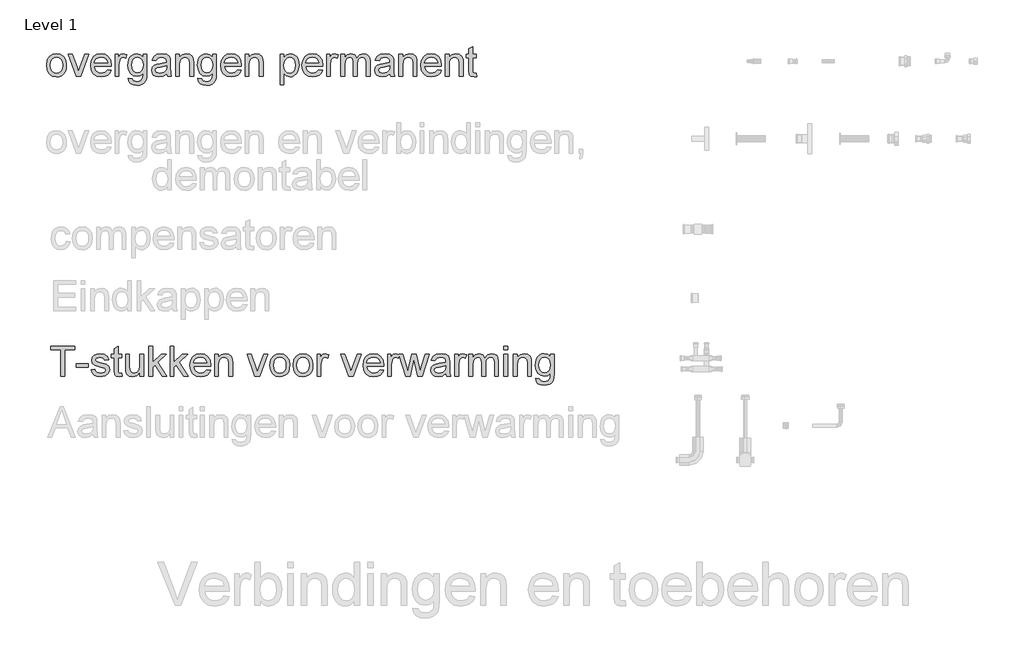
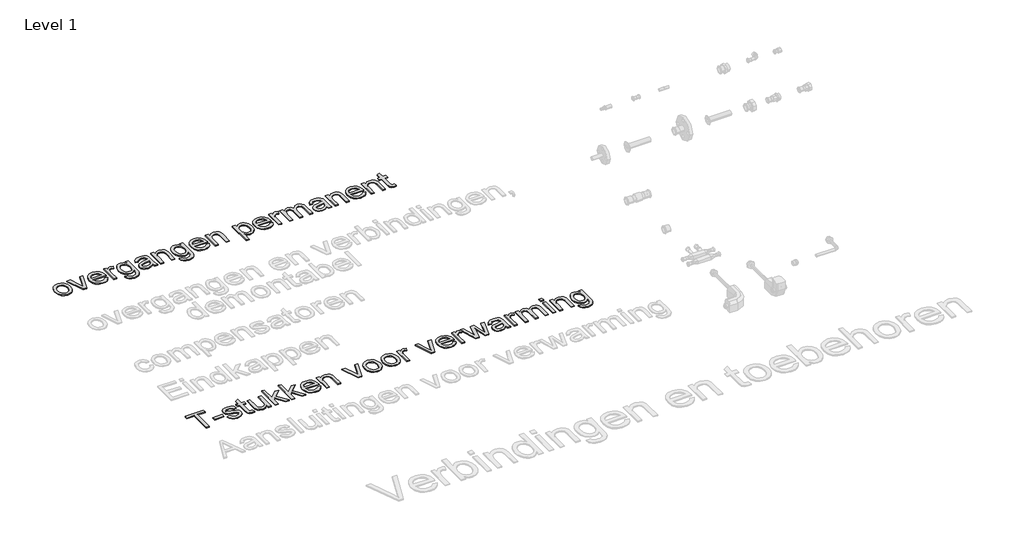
# One storey, part 6 of 8: 2 proxies.
"""IFC4 building model written with IfcOpenShell, lengths in millimetres."""

from ifc_helpers import new_model, si_unit, origin, origin_with_axes, place, context, project, spatial, polyline, outline, extrude, element, save

model = new_model("IFC4")

# Units and contexts
model_context = context("Model", 3, world=origin())
ifc_project = project(units=[si_unit("LENGTHUNIT", "METRE", prefix="MILLI")], contexts=[model_context])

# Site, building, storey
site = spatial("IfcSite", under=ifc_project)
building = spatial("IfcBuilding", under=site)
storey = spatial("IfcBuildingStorey", under=building, Name="Level 1", Elevation=0.0)

# Proxies
placement = place(None, origin())
element("IfcBuildingElementProxy", 1, Name="small", ObjectType="small", at=placement, inside=storey, context=model_context, shape_type="SweptSolid", body=[
    extrude(outline(polyline([(2634.8228033, 5632.1212337), (2638.6254769, 5657.023166), (2650.0334976, 5674.525765), (2664.1282831, 5683.1010943), (2681.0042565, 5685.9595374), (2699.4725458, 5682.4787606), (2714.2240006, 5672.0364302), (2723.8937789, 5655.4566018), (2727.1170383, 5633.5633311), (2725.6921087, 5615.8032147), (2721.4173199, 5602.2835514), (2714.4171387, 5592.1588257), (2704.8160318, 5584.5835223), (2693.412303, 5579.8580781), (2681.0042565, 5578.28293), (2662.3127854, 5581.7508309), (2647.5784984, 5592.1545338), (2638.0117271, 5609.0820106), (2634.8228033, 5632.1212337)]), holes=[polyline([(2652.4026576, 5632.1555694), (2654.4370451, 5616.2452862), (2660.5402074, 5604.9102288), (2669.7249945, 5598.1246454), (2681.0042565, 5595.8627843), (2692.232015, 5598.1375213), (2701.3996343, 5604.9617323), (2707.5027966, 5616.4470082), (2709.537184, 5632.7049398), (2707.4899207, 5648.1516917), (2701.3481308, 5659.3322386), (2692.1676356, 5666.117822), (2681.0042565, 5668.3796832), (2669.7249945, 5666.1264059), (2660.5402074, 5659.3665743), (2654.4370451, 5648.0572686), (2652.4026576, 5632.1555694)])]), origin_with_axes(), (0.0, 0.0, 1.0), 5.0),
    extrude(outline(polyline([(2772.2340862, 5580.4804118), (2735.9069654, 5683.7620557), (2754.5168893, 5683.7620557), (2776.5260428, 5621.8892092), (2783.1528238, 5601.0818035), (2789.6422622, 5620.721797), (2811.7887583, 5683.7620557), (2830.3986822, 5683.7620557), (2794.5179249, 5580.4804118), (2772.2340862, 5580.4804118)])), origin_with_axes(), (0.0, 0.0, 1.0), 5.0),
    extrude(outline(polyline([(2918.0919396, 5611.2451568), (2935.3284374, 5609.047675), (2929.1179762, 5596.0602143), (2919.2078484, 5586.3518084), (2905.8212357, 5580.3001496), (2889.1813199, 5578.28293), (2868.5541764, 5581.7637068), (2852.6825209, 5592.2060372), (2842.5620872, 5608.9317922), (2839.1886093, 5631.2628424), (2842.5964229, 5654.3449851), (2852.8198635, 5671.6072345), (2868.4769212, 5682.3714617), (2888.185586, 5685.9595374), (2907.2805009, 5682.3800456), (2922.5384067, 5671.6415702), (2932.5429575, 5654.4136564), (2935.8778078, 5631.3658494), (2935.7748009, 5626.6275293), (2856.7684636, 5626.6275293), (2859.8114608, 5613.4683903), (2866.8803134, 5603.7943201), (2877.0822942, 5597.8456682), (2889.5246764, 5595.8627843), (2906.7611742, 5599.5366991), (2918.0919396, 5611.2451568)]), holes=[polyline([(2856.7684636, 5644.2073835), (2918.2979536, 5644.2073835), (2911.2591447, 5660.1391265), (2901.0099523, 5666.319544), (2888.1169147, 5668.3796832), (2876.2668225, 5666.7358638), (2866.4682855, 5661.8044056), (2859.6569504, 5654.1175114), (2856.7684636, 5644.2073835)])]), origin_with_axes(), (0.0, 0.0, 1.0), 5.0),
    extrude(outline(polyline([(2953.4576621, 5580.4804118), (2953.4576621, 5683.7620557), (2968.8400346, 5683.7620557), (2968.8400346, 5668.4826901), (2979.7587722, 5682.5603078), (2990.7461811, 5685.9595374), (3008.3947067, 5680.5345043), (3002.5233101, 5664.7744396), (2990.162475, 5668.3796832), (2980.2223035, 5664.9117822), (2973.8873756, 5655.2977994), (2971.0375164, 5634.765079), (2971.0375164, 5580.4804118), (2953.4576621, 5580.4804118)])), origin_with_axes(), (0.0, 0.0, 1.0), 5.0),
    extrude(outline(polyline([(3014.9871521, 5571.6904847), (3032.5670063, 5569.4930029), (3038.2667247, 5560.2223766), (3055.3315442, 5556.3081122), (3073.3234263, 5560.7374114), (3081.9073395, 5573.1669177), (3083.1090874, 5593.6653025), (3070.7310845, 5583.7766345), (3055.6405651, 5580.4804118), (3037.5156323, 5584.317421), (3024.000261, 5595.8284486), (3015.592318, 5612.704422), (3012.7896703, 5632.6362685), (3017.8198434, 5659.8816091), (3023.9745092, 5670.9419813), (3032.3781603, 5679.1610782), (3042.7432355, 5684.2599226), (3054.7821738, 5685.9595374), (3070.4649832, 5682.1139443), (3083.1090874, 5670.577165), (3083.1090874, 5683.7620557), (3100.6889417, 5683.7620557), (3100.6889417, 5594.5923651), (3099.4871938, 5574.0038493), (3095.8819503, 5560.4455583), (3089.671489, 5551.4539092), (3080.6540882, 5544.5653189), (3069.0271778, 5540.1875231), (3054.9881877, 5538.7282579), (3038.631541, 5540.7841051), (3025.7513793, 5546.9516467), (3017.4893628, 5557.2480507), (3014.9871521, 5571.6904847)]), holes=[polyline([(3030.3695246, 5633.8380164), (3032.2451096, 5617.7131354), (3037.8718647, 5606.6270115), (3046.3313112, 5600.2019524), (3056.7049703, 5598.0602661), (3067.0013742, 5600.1890765), (3075.5037403, 5606.575508), (3081.2077506, 5617.5199973), (3083.1090874, 5633.3229816), (3081.1519552, 5648.5637195), (3075.2805585, 5659.5382526), (3066.6537257, 5666.1693255), (3056.4302851, 5668.3796832), (3046.3913986, 5666.2036612), (3037.9748717, 5659.6755952), (3032.2708613, 5648.8641565), (3030.3695246, 5633.8380164)])]), origin_with_axes(), (0.0, 0.0, 1.0), 5.0),
    extrude(outline(polyline([(3192.9831766, 5593.6653025), (3175.935525, 5581.7508309), (3157.1024194, 5578.28293), (3142.4110519, 5580.3688209), (3131.5738614, 5586.6264937), (3124.891285, 5596.1288856), (3122.6637595, 5607.9489341), (3126.0286535, 5621.8548735), (3134.8700841, 5631.9495555), (3147.1794157, 5637.7179451), (3162.3901099, 5640.3617904), (3192.8801697, 5646.4048653), (3192.9831766, 5650.3191298), (3191.7728449, 5658.1648264), (3188.1418496, 5663.2980065), (3180.0214677, 5667.109264), (3168.70787, 5668.3796832), (3150.9220018, 5664.9976214), (3142.4410956, 5652.9973107), (3124.8612413, 5655.1947925), (3132.4665884, 5672.3626189), (3147.7802896, 5682.4229652), (3170.9740231, 5685.9595374), (3192.2792957, 5682.834993), (3204.3139421, 5674.9892963), (3209.7046396, 5663.057657), (3210.5630309, 5647.6752845), (3210.5630309, 5625.8034736), (3211.4557579, 5595.2619104), (3214.9579945, 5580.4804118), (3197.3781402, 5580.4804118), (3192.9831766, 5593.6653025)]), holes=[polyline([(3192.9831766, 5628.825011), (3164.6219273, 5623.4343135), (3149.4970722, 5620.5844544), (3142.6471095, 5615.9491412), (3140.2436138, 5609.1850176), (3145.4798009, 5599.6740418), (3160.8450055, 5595.8627843), (3178.6308737, 5600.0689018), (3190.0989818, 5610.2494228), (3192.8801697, 5623.8463414), (3192.9831766, 5628.825011)])]), origin_with_axes(), (0.0, 0.0, 1.0), 5.0),
    extrude(outline(polyline([(3234.7353305, 5580.4804118), (3234.7353305, 5683.7620557), (3252.3151848, 5683.7620557), (3252.3151848, 5669.3410815), (3265.7575929, 5681.8049234), (3284.1099994, 5685.9595374), (3300.7112875, 5682.6118113), (3312.042053, 5673.8218842), (3317.3125757, 5660.8945108), (3318.2396383, 5643.8983627), (3318.2396383, 5580.4804118), (3300.6597841, 5580.4804118), (3300.6597841, 5641.5292026), (3298.6339805, 5657.0832534), (3291.4749969, 5665.3066422), (3279.4060149, 5668.3796832), (3269.109611, 5666.6543166), (3260.3325597, 5661.4782169), (3254.3195285, 5651.477958), (3252.3151848, 5635.2801138), (3252.3151848, 5580.4804118), (3234.7353305, 5580.4804118)])), origin_with_axes(), (0.0, 0.0, 1.0), 5.0),
    extrude(outline(polyline([(3338.0169744, 5571.6904847), (3355.5968287, 5569.4930029), (3361.2965471, 5560.2223766), (3378.3613665, 5556.3081122), (3396.3532486, 5560.7374114), (3404.9371619, 5573.1669177), (3406.1389097, 5593.6653025), (3393.7609069, 5583.7766345), (3378.6703874, 5580.4804118), (3360.5454546, 5584.317421), (3347.0300833, 5595.8284486), (3338.6221403, 5612.704422), (3335.8194926, 5632.6362685), (3340.8496658, 5659.8816091), (3347.0043315, 5670.9419813), (3355.4079826, 5679.1610782), (3365.7730578, 5684.2599226), (3377.8119961, 5685.9595374), (3393.4948055, 5682.1139443), (3406.1389097, 5670.577165), (3406.1389097, 5683.7620557), (3423.718764, 5683.7620557), (3423.718764, 5594.5923651), (3422.5170161, 5574.0038493), (3418.9117726, 5560.4455583), (3412.7013114, 5551.4539092), (3403.6839105, 5544.5653189), (3392.0570001, 5540.1875231), (3378.01801, 5538.7282579), (3361.6613634, 5540.7841051), (3348.7812016, 5546.9516467), (3340.5191851, 5557.2480507), (3338.0169744, 5571.6904847)]), holes=[polyline([(3353.3993469, 5633.8380164), (3355.2749319, 5617.7131354), (3360.901687, 5606.6270115), (3369.3611335, 5600.2019524), (3379.7347926, 5598.0602661), (3390.0311966, 5600.1890765), (3398.5335626, 5606.575508), (3404.2375729, 5617.5199973), (3406.1389097, 5633.3229816), (3404.1817775, 5648.5637195), (3398.3103809, 5659.5382526), (3389.6835481, 5666.1693255), (3379.4601074, 5668.3796832), (3369.4212209, 5666.2036612), (3361.004694, 5659.6755952), (3355.3006837, 5648.8641565), (3353.3993469, 5633.8380164)])]), origin_with_axes(), (0.0, 0.0, 1.0), 5.0),
    extrude(outline(polyline([(3522.3994304, 5611.2451568), (3539.6359281, 5609.047675), (3533.4254669, 5596.0602143), (3523.5153391, 5586.3518084), (3510.1287264, 5580.3001496), (3493.4888107, 5578.28293), (3472.8616672, 5581.7637068), (3456.9900116, 5592.2060372), (3446.8695779, 5608.9317922), (3443.4961001, 5631.2628424), (3446.9039136, 5654.3449851), (3457.1273542, 5671.6072345), (3472.784412, 5682.3714617), (3492.4930767, 5685.9595374), (3511.5879917, 5682.3800456), (3526.8458974, 5671.6415702), (3536.8504483, 5654.4136564), (3540.1852986, 5631.3658494), (3540.0822916, 5626.6275293), (3461.0759543, 5626.6275293), (3464.1189516, 5613.4683903), (3471.1878041, 5603.7943201), (3481.389785, 5597.8456682), (3493.8321672, 5595.8627843), (3511.0686649, 5599.5366991), (3522.3994304, 5611.2451568)]), holes=[polyline([(3461.0759543, 5644.2073835), (3522.6054443, 5644.2073835), (3515.5666355, 5660.1391265), (3505.3174431, 5666.319544), (3492.4244054, 5668.3796832), (3480.5743132, 5666.7358638), (3470.7757763, 5661.8044056), (3463.9644411, 5654.1175114), (3461.0759543, 5644.2073835)])]), origin_with_axes(), (0.0, 0.0, 1.0), 5.0),
    extrude(outline(polyline([(3557.7651528, 5580.4804118), (3557.7651528, 5683.7620557), (3575.3450071, 5683.7620557), (3575.3450071, 5669.3410815), (3588.7874152, 5681.8049234), (3607.1398217, 5685.9595374), (3623.7411099, 5682.6118113), (3635.0718753, 5673.8218842), (3640.342398, 5660.8945108), (3641.2694607, 5643.8983627), (3641.2694607, 5580.4804118), (3623.6896064, 5580.4804118), (3623.6896064, 5641.5292026), (3621.6638029, 5657.0832534), (3614.5048192, 5665.3066422), (3602.4358373, 5668.3796832), (3592.1394333, 5666.6543166), (3583.3623821, 5661.4782169), (3577.3493509, 5651.477958), (3575.3450071, 5635.2801138), (3575.3450071, 5580.4804118), (3557.7651528, 5580.4804118)])), origin_with_axes(), (0.0, 0.0, 1.0), 5.0),
    extrude(outline(polyline([(3720.3788049, 5540.9257397), (3720.3788049, 5683.7620557), (3737.9586592, 5683.7620557), (3737.9586592, 5666.5255579), (3750.1134803, 5681.1010426), (3766.5259224, 5685.9595374), (3778.4146422, 5684.2599226), (3788.8097611, 5679.1610782), (3797.2734995, 5670.972025), (3803.3680779, 5660.0017839), (3808.2780763, 5632.9109537), (3802.7328683, 5604.4295297), (3795.9344091, 5593.2532747), (3786.6294471, 5585.0298858), (3775.7922567, 5579.969669), (3764.3971119, 5578.28293), (3749.1005785, 5582.7980684), (3737.9586592, 5594.2146729), (3737.9586592, 5540.9257397), (3720.3788049, 5540.9257397)]), holes=[polyline([(3737.9586592, 5631.2971781), (3739.859996, 5615.5371134), (3745.5640063, 5604.5153688), (3753.9805332, 5598.0259304), (3764.0194197, 5595.8627843), (3774.2214006, 5598.1031856), (3782.8525253, 5604.8243897), (3788.7367978, 5616.2495782), (3790.698222, 5632.6019329), (3788.7840094, 5648.2761584), (3783.0413714, 5659.4524134), (3774.6377204, 5666.1478657), (3764.7404684, 5668.3796832), (3754.8045889, 5666.0062312), (3746.0790411, 5658.8858751), (3739.9887547, 5647.2417969), (3737.9586592, 5631.2971781)])]), origin_with_axes(), (0.0, 0.0, 1.0), 5.0),
    extrude(outline(polyline([(3900.3662973, 5611.2451568), (3917.6027951, 5609.047675), (3911.3923338, 5596.0602143), (3901.482206, 5586.3518084), (3888.0955934, 5580.3001496), (3871.4556776, 5578.28293), (3850.8285341, 5581.7637068), (3834.9568786, 5592.2060372), (3824.8364449, 5608.9317922), (3821.462967, 5631.2628424), (3824.8707805, 5654.3449851), (3835.0942212, 5671.6072345), (3850.7512789, 5682.3714617), (3870.4599437, 5685.9595374), (3889.5548586, 5682.3800456), (3904.8127644, 5671.6415702), (3914.8173152, 5654.4136564), (3918.1521655, 5631.3658494), (3918.0491586, 5626.6275293), (3839.0428213, 5626.6275293), (3842.0858185, 5613.4683903), (3849.154671, 5603.7943201), (3859.3566519, 5597.8456682), (3871.7990341, 5595.8627843), (3889.0355319, 5599.5366991), (3900.3662973, 5611.2451568)]), holes=[polyline([(3839.0428213, 5644.2073835), (3900.5723112, 5644.2073835), (3893.5335024, 5660.1391265), (3883.28431, 5666.319544), (3870.3912724, 5668.3796832), (3858.5411801, 5666.7358638), (3848.7426432, 5661.8044056), (3841.9313081, 5654.1175114), (3839.0428213, 5644.2073835)])]), origin_with_axes(), (0.0, 0.0, 1.0), 5.0),
    extrude(outline(polyline([(3935.7320198, 5580.4804118), (3935.7320198, 5683.7620557), (3951.1143923, 5683.7620557), (3951.1143923, 5668.4826901), (3962.0331299, 5682.5603078), (3973.0205388, 5685.9595374), (3990.6690644, 5680.5345043), (3984.7976678, 5664.7744396), (3972.4368327, 5668.3796832), (3962.4966612, 5664.9117822), (3956.1617333, 5655.2977994), (3953.3118741, 5634.765079), (3953.3118741, 5580.4804118), (3935.7320198, 5580.4804118)])), origin_with_axes(), (0.0, 0.0, 1.0), 5.0),
    extrude(outline(polyline([(4001.6564733, 5580.4804118), (4001.6564733, 5683.7620557), (4019.2363276, 5683.7620557), (4019.2363276, 5666.7659075), (4031.3224774, 5680.6890147), (4048.5246395, 5685.9595374), (4066.1388294, 5680.5860078), (4075.8214836, 5665.529824), (4089.5385769, 5680.8521091), (4106.8609138, 5685.9595374), (4120.0758482, 5683.8350189), (4129.8486334, 5677.4614634), (4135.8874163, 5666.6671925), (4137.900344, 5651.280528), (4137.900344, 5580.4804118), (4120.3204897, 5580.4804118), (4120.3204897, 5643.7266844), (4118.6895462, 5658.405176), (4112.7838139, 5665.6328309), (4102.7406354, 5668.3796832), (4093.2167837, 5666.619981), (4085.4526342, 5661.3408743), (4080.2894104, 5652.1818389), (4078.5683358, 5638.7823504), (4078.5683358, 5580.4804118), (4060.9884815, 5580.4804118), (4060.9884815, 5645.6838166), (4056.9197066, 5662.7143004), (4051.5504689, 5666.9633375), (4043.5803055, 5668.3796832), (4030.5670931, 5664.6027614), (4021.9145085, 5653.5466811), (4019.2363276, 5632.5675972), (4019.2363276, 5580.4804118), (4001.6564733, 5580.4804118)])), origin_with_axes(), (0.0, 0.0, 1.0), 5.0),
    extrude(outline(polyline([(4230.1945789, 5593.6653025), (4213.1469273, 5581.7508309), (4194.3138217, 5578.28293), (4179.6224542, 5580.3688209), (4168.7852637, 5586.6264937), (4162.1026873, 5596.1288856), (4159.8751618, 5607.9489341), (4163.2400558, 5621.8548735), (4172.0814864, 5631.9495555), (4184.390818, 5637.7179451), (4199.6015122, 5640.3617904), (4230.091572, 5646.4048653), (4230.1945789, 5650.3191298), (4228.9842471, 5658.1648264), (4225.3532519, 5663.2980065), (4217.2328699, 5667.109264), (4205.9192723, 5668.3796832), (4188.1334041, 5664.9976214), (4179.6524979, 5652.9973107), (4162.0726436, 5655.1947925), (4169.6779907, 5672.3626189), (4184.9916919, 5682.4229652), (4208.1854254, 5685.9595374), (4229.490698, 5682.834993), (4241.5253444, 5674.9892963), (4246.9160419, 5663.057657), (4247.7744332, 5647.6752845), (4247.7744332, 5625.8034736), (4248.6671602, 5595.2619104), (4252.1693968, 5580.4804118), (4234.5895425, 5580.4804118), (4230.1945789, 5593.6653025)]), holes=[polyline([(4230.1945789, 5628.825011), (4201.8333296, 5623.4343135), (4186.7084745, 5620.5844544), (4179.8585118, 5615.9491412), (4177.4550161, 5609.1850176), (4182.6912031, 5599.6740418), (4198.0564078, 5595.8627843), (4215.842276, 5600.0689018), (4227.3103841, 5610.2494228), (4230.091572, 5623.8463414), (4230.1945789, 5628.825011)])]), origin_with_axes(), (0.0, 0.0, 1.0), 5.0),
    extrude(outline(polyline([(4271.9467328, 5580.4804118), (4271.9467328, 5683.7620557), (4289.5265871, 5683.7620557), (4289.5265871, 5669.3410815), (4302.9689952, 5681.8049234), (4321.3214017, 5685.9595374), (4337.9226898, 5682.6118113), (4349.2534553, 5673.8218842), (4354.523978, 5660.8945108), (4355.4510406, 5643.8983627), (4355.4510406, 5580.4804118), (4337.8711864, 5580.4804118), (4337.8711864, 5641.5292026), (4335.8453828, 5657.0832534), (4328.6863992, 5665.3066422), (4316.6174172, 5668.3796832), (4306.3210133, 5666.6543166), (4297.543962, 5661.4782169), (4291.5309308, 5651.477958), (4289.5265871, 5635.2801138), (4289.5265871, 5580.4804118), (4271.9467328, 5580.4804118)])), origin_with_axes(), (0.0, 0.0, 1.0), 5.0),
    extrude(outline(polyline([(4451.9342252, 5611.2451568), (4469.170723, 5609.047675), (4462.9602618, 5596.0602143), (4453.050134, 5586.3518084), (4439.6635213, 5580.3001496), (4423.0236055, 5578.28293), (4402.396462, 5581.7637068), (4386.5248065, 5592.2060372), (4376.4043728, 5608.9317922), (4373.0308949, 5631.2628424), (4376.4387085, 5654.3449851), (4386.6621491, 5671.6072345), (4402.3192068, 5682.3714617), (4422.0278716, 5685.9595374), (4441.1227865, 5682.3800456), (4456.3806923, 5671.6415702), (4466.3852431, 5654.4136564), (4469.7200934, 5631.3658494), (4469.6170865, 5626.6275293), (4390.6107492, 5626.6275293), (4393.6537464, 5613.4683903), (4400.722599, 5603.7943201), (4410.9245798, 5597.8456682), (4423.366962, 5595.8627843), (4440.6034598, 5599.5366991), (4451.9342252, 5611.2451568)]), holes=[polyline([(4390.6107492, 5644.2073835), (4452.1402391, 5644.2073835), (4445.1014303, 5660.1391265), (4434.8522379, 5666.319544), (4421.9592003, 5668.3796832), (4410.1091081, 5666.7358638), (4400.3105711, 5661.8044056), (4393.499236, 5654.1175114), (4390.6107492, 5644.2073835)])]), origin_with_axes(), (0.0, 0.0, 1.0), 5.0),
    extrude(outline(polyline([(4487.2999477, 5580.4804118), (4487.2999477, 5683.7620557), (4504.879802, 5683.7620557), (4504.879802, 5669.3410815), (4518.3222101, 5681.8049234), (4536.6746165, 5685.9595374), (4553.2759047, 5682.6118113), (4564.6066702, 5673.8218842), (4569.8771929, 5660.8945108), (4570.8042555, 5643.8983627), (4570.8042555, 5580.4804118), (4553.2244012, 5580.4804118), (4553.2244012, 5641.5292026), (4551.1985977, 5657.0832534), (4544.0396141, 5665.3066422), (4531.9706321, 5668.3796832), (4521.6742282, 5666.6543166), (4512.8971769, 5661.4782169), (4506.8841457, 5651.477958), (4504.879802, 5635.2801138), (4504.879802, 5580.4804118), (4487.2999477, 5580.4804118)])), origin_with_axes(), (0.0, 0.0, 1.0), 5.0),
    extrude(outline(polyline([(4632.3337455, 5595.1417356), (4634.5312273, 5579.965377), (4621.3806722, 5578.28293), (4606.6506771, 5581.2014605), (4599.3028474, 5588.8583111), (4597.1740369, 5608.8073254), (4597.1740369, 5666.1822014), (4583.9891462, 5666.1822014), (4583.9891462, 5683.7620557), (4597.1740369, 5683.7620557), (4597.1740369, 5708.8614179), (4614.7538912, 5719.1964494), (4614.7538912, 5683.7620557), (4632.3337455, 5683.7620557), (4632.3337455, 5666.1822014), (4614.7538912, 5666.1822014), (4614.7538912, 5609.3223602), (4615.6809538, 5600.2577478), (4618.6853235, 5597.0473643), (4624.6768949, 5595.8627843), (4632.3337455, 5595.1417356)])), origin_with_axes(), (0.0, 0.0, 1.0), 5.0),
])
element("IfcBuildingElementProxy", 2, Name="small", ObjectType="small", at=placement, inside=storey, context=model_context, shape_type="SweptSolid", body=[
    extrude(outline(polyline([(2701.23268, 4186.9452808), (2701.23268, 4310.0042607), (2655.0855625, 4310.0042607), (2655.0855625, 4327.584115), (2764.9596517, 4327.584115), (2764.9596517, 4310.0042607), (2718.8125343, 4310.0042607), (2718.8125343, 4186.9452808), (2701.23268, 4186.9452808)])), origin_with_axes(), (0.0, 0.0, 1.0), 5.0),
    extrude(outline(polyline([(2773.7495789, 4228.6974347), (2773.7495789, 4246.277289), (2828.6866235, 4246.277289), (2828.6866235, 4228.6974347), (2773.7495789, 4228.6974347)])), origin_with_axes(), (0.0, 0.0, 1.0), 5.0),
    extrude(outline(polyline([(2841.8715142, 4217.7100258), (2859.4513685, 4219.9075076), (2862.2239724, 4212.3879996), (2867.5889182, 4206.8599595), (2886.2331777, 4202.3276533), (2904.1563885, 4206.4822673), (2909.9934495, 4216.2335927), (2904.1220529, 4224.1307929), (2886.0271638, 4229.1437982), (2859.5543754, 4237.7448792), (2848.0004282, 4247.7880577), (2844.068996, 4261.9686823), (2847.227876, 4275.0677339), (2855.8461249, 4285.0765767), (2867.0223799, 4290.2784281), (2882.147235, 4292.4244064), (2903.5383468, 4288.9736733), (2917.1352653, 4279.6343757), (2923.1783402, 4263.8571432), (2905.5984859, 4261.6596615), (2898.9888728, 4271.3594834), (2883.5206611, 4274.8445522), (2866.6961912, 4271.5139938), (2861.6488503, 4263.7541363), (2863.7433251, 4258.638124), (2870.3014348, 4254.7581952), (2885.4434577, 4251.0156091), (2911.2467008, 4242.7407167), (2923.2298437, 4233.3670835), (2927.5733038, 4218.087718), (2922.4744593, 4201.263248), (2907.7616321, 4189.0569234), (2885.9928281, 4184.747799), (2868.2670473, 4186.825106), (2855.3310901, 4193.057027), (2846.6956734, 4203.3748907), (2841.8715142, 4217.7100258)])), origin_with_axes(), (0.0, 0.0, 1.0), 5.0),
    extrude(outline(polyline([(2984.7078302, 4201.6066046), (2986.905312, 4186.430246), (2973.7547569, 4184.747799), (2959.0247618, 4187.6663295), (2951.6769321, 4195.3231801), (2949.5481216, 4215.2721944), (2949.5481216, 4272.6470704), (2936.3632309, 4272.6470704), (2936.3632309, 4290.2269247), (2949.5481216, 4290.2269247), (2949.5481216, 4315.3262869), (2967.1279759, 4325.6613184), (2967.1279759, 4290.2269247), (2984.7078302, 4290.2269247), (2984.7078302, 4272.6470704), (2967.1279759, 4272.6470704), (2967.1279759, 4215.7872292), (2968.0550385, 4206.7226168), (2971.0594082, 4203.5122333), (2977.0509796, 4202.3276533), (2984.7078302, 4201.6066046)])), origin_with_axes(), (0.0, 0.0, 1.0), 5.0),
    extrude(outline(polyline([(3068.212138, 4186.9452808), (3068.212138, 4204.6968133), (3054.4435412, 4189.7350526), (3036.4859947, 4184.747799), (3019.9533779, 4188.2500356), (3008.5539411, 4197.0399627), (3003.317754, 4209.9845039), (3002.2876845, 4226.3282746), (3002.2876845, 4290.2269247), (3019.8675387, 4290.2269247), (3019.8675387, 4234.603167), (3020.931944, 4216.6799562), (3027.8849137, 4206.1560786), (3040.9839653, 4202.3276533), (3055.6624569, 4206.2419177), (3065.3622788, 4216.9031379), (3068.212138, 4236.4916279), (3068.212138, 4290.2269247), (3085.7919923, 4290.2269247), (3085.7919923, 4186.9452808), (3068.212138, 4186.9452808)])), origin_with_axes(), (0.0, 0.0, 1.0), 5.0),
    extrude(outline(polyline([(3109.9642919, 4186.9452808), (3109.9642919, 4327.584115), (3127.5441462, 4327.584115), (3127.5441462, 4252.011343), (3166.9614757, 4290.2269247), (3191.2711179, 4290.2269247), (3151.3730893, 4251.5306439), (3193.4685997, 4186.9452808), (3172.9358793, 4186.9452808), (3138.7719047, 4239.3071514), (3127.5441462, 4228.4227495), (3127.5441462, 4186.9452808), (3109.9642919, 4186.9452808)])), origin_with_axes(), (0.0, 0.0, 1.0), 5.0),
    extrude(outline(polyline([(3208.8509722, 4186.9452808), (3208.8509722, 4327.584115), (3226.4308265, 4327.584115), (3226.4308265, 4252.011343), (3265.848156, 4290.2269247), (3290.1577982, 4290.2269247), (3250.2597696, 4251.5306439), (3292.35528, 4186.9452808), (3271.8225596, 4186.9452808), (3237.658585, 4239.3071514), (3226.4308265, 4228.4227495), (3226.4308265, 4186.9452808), (3208.8509722, 4186.9452808)])), origin_with_axes(), (0.0, 0.0, 1.0), 5.0),
    extrude(outline(polyline([(3380.0485375, 4217.7100258), (3397.2850352, 4215.512544), (3391.074574, 4202.5250833), (3381.1644462, 4192.8166774), (3367.7778335, 4186.7650186), (3351.1379178, 4184.747799), (3330.5107743, 4188.2285758), (3314.6391187, 4198.6709062), (3304.5186851, 4215.3966612), (3301.1452072, 4237.7277114), (3304.5530207, 4260.8098541), (3314.7764614, 4278.0721035), (3330.4335191, 4288.8363307), (3350.1421838, 4292.4244064), (3369.2370988, 4288.8449146), (3384.4950045, 4278.1064392), (3394.4995554, 4260.8785254), (3397.8344057, 4237.8307184), (3397.7313987, 4233.0923983), (3318.7250614, 4233.0923983), (3321.7680587, 4219.9332593), (3328.8369112, 4210.2591891), (3339.0388921, 4204.3105372), (3351.4812743, 4202.3276533), (3368.717772, 4206.0015681), (3380.0485375, 4217.7100258)]), holes=[polyline([(3318.7250614, 4250.6722525), (3380.2545514, 4250.6722525), (3373.2157426, 4266.6039955), (3362.9665502, 4272.784413), (3350.0735125, 4274.8445522), (3338.2234203, 4273.2007328), (3328.4248834, 4268.2692746), (3321.6135482, 4260.5823804), (3318.7250614, 4250.6722525)])]), origin_with_axes(), (0.0, 0.0, 1.0), 5.0),
    extrude(outline(polyline([(3415.41426, 4186.9452808), (3415.41426, 4290.2269247), (3432.9941142, 4290.2269247), (3432.9941142, 4275.8059505), (3446.4365223, 4288.2697924), (3464.7889288, 4292.4244064), (3481.390217, 4289.0766803), (3492.7209824, 4280.2867532), (3497.9915051, 4267.3593798), (3498.9185678, 4250.3632317), (3498.9185678, 4186.9452808), (3481.3387135, 4186.9452808), (3481.3387135, 4247.9940716), (3479.31291, 4263.5481224), (3472.1539263, 4271.7715112), (3460.0849444, 4274.8445522), (3449.7885404, 4273.1191856), (3441.0114892, 4267.9430859), (3434.998458, 4257.942827), (3432.9941142, 4241.7449828), (3432.9941142, 4186.9452808), (3415.41426, 4186.9452808)])), origin_with_axes(), (0.0, 0.0, 1.0), 5.0),
    extrude(outline(polyline([(3603.3676238, 4186.9452808), (3567.0405031, 4290.2269247), (3585.6504269, 4290.2269247), (3607.6595804, 4228.3540782), (3614.2863615, 4207.5466725), (3620.7757998, 4227.186666), (3642.922296, 4290.2269247), (3661.5322198, 4290.2269247), (3625.6514626, 4186.9452808), (3603.3676238, 4186.9452808)])), origin_with_axes(), (0.0, 0.0, 1.0), 5.0),
    extrude(outline(polyline([(3672.5196287, 4238.5861027), (3676.3223023, 4263.488035), (3687.730323, 4280.990634), (3701.8251085, 4289.5659633), (3718.7010819, 4292.4244064), (3737.1693712, 4288.9436296), (3751.920826, 4278.5012992), (3761.5906043, 4261.9214708), (3764.8138637, 4240.0282001), (3763.3889341, 4222.2680837), (3759.1141453, 4208.7484204), (3752.1139641, 4198.6236947), (3742.5128571, 4191.0483913), (3731.1091284, 4186.3229471), (3718.7010819, 4184.747799), (3700.0096108, 4188.2156999), (3685.2753238, 4198.6194028), (3675.7085525, 4215.5468796), (3672.5196287, 4238.5861027)]), holes=[polyline([(3690.099483, 4238.6204384), (3692.1338705, 4222.7101552), (3698.2370328, 4211.3750978), (3707.4218199, 4204.5895144), (3718.7010819, 4202.3276533), (3729.9288404, 4204.6023903), (3739.0964597, 4211.4266013), (3745.199622, 4222.9118772), (3747.2340094, 4239.1698088), (3745.1867461, 4254.6165607), (3739.0449562, 4265.7971076), (3729.864461, 4272.582691), (3718.7010819, 4274.8445522), (3707.4218199, 4272.5912749), (3698.2370328, 4265.8314433), (3692.1338705, 4254.5221376), (3690.099483, 4238.6204384)])]), origin_with_axes(), (0.0, 0.0, 1.0), 5.0),
    extrude(outline(polyline([(3780.1962362, 4238.5861027), (3783.9989097, 4263.488035), (3795.4069304, 4280.990634), (3809.5017159, 4289.5659633), (3826.3776893, 4292.4244064), (3844.8459786, 4288.9436296), (3859.5974335, 4278.5012992), (3869.2672117, 4261.9214708), (3872.4904711, 4240.0282001), (3871.0655415, 4222.2680837), (3866.7907528, 4208.7484204), (3859.7905715, 4198.6236947), (3850.1894646, 4191.0483913), (3838.7857359, 4186.3229471), (3826.3776893, 4184.747799), (3807.6862183, 4188.2156999), (3792.9519312, 4198.6194028), (3783.3851599, 4215.5468796), (3780.1962362, 4238.5861027)]), holes=[polyline([(3797.7760905, 4238.6204384), (3799.8104779, 4222.7101552), (3805.9136402, 4211.3750978), (3815.0984273, 4204.5895144), (3826.3776893, 4202.3276533), (3837.6054478, 4204.6023903), (3846.7730671, 4211.4266013), (3852.8762294, 4222.9118772), (3854.9106169, 4239.1698088), (3852.8633536, 4254.6165607), (3846.7215636, 4265.7971076), (3837.5410685, 4272.582691), (3826.3776893, 4274.8445522), (3815.0984273, 4272.5912749), (3805.9136402, 4265.8314433), (3799.8104779, 4254.5221376), (3797.7760905, 4238.6204384)])]), origin_with_axes(), (0.0, 0.0, 1.0), 5.0),
    extrude(outline(polyline([(3892.2678072, 4186.9452808), (3892.2678072, 4290.2269247), (3907.6501797, 4290.2269247), (3907.6501797, 4274.9475591), (3918.5689173, 4289.0251768), (3929.5563262, 4292.4244064), (3947.2048518, 4286.9993733), (3941.3334552, 4271.2393086), (3928.9726201, 4274.8445522), (3919.0324486, 4271.3766512), (3912.6975207, 4261.7626684), (3909.8476615, 4241.229948), (3909.8476615, 4186.9452808), (3892.2678072, 4186.9452808)])), origin_with_axes(), (0.0, 0.0, 1.0), 5.0),
    extrude(outline(polyline([(4038.4690172, 4186.9452808), (4002.1418964, 4290.2269247), (4020.7518203, 4290.2269247), (4042.7609738, 4228.3540782), (4049.3877548, 4207.5466725), (4055.8771932, 4227.186666), (4078.0236893, 4290.2269247), (4096.6336132, 4290.2269247), (4060.7528559, 4186.9452808), (4038.4690172, 4186.9452808)])), origin_with_axes(), (0.0, 0.0, 1.0), 5.0),
    extrude(outline(polyline([(4184.3268706, 4217.7100258), (4201.5633684, 4215.512544), (4195.3529072, 4202.5250833), (4185.4427793, 4192.8166774), (4172.0561667, 4186.7650186), (4155.4162509, 4184.747799), (4134.7891074, 4188.2285758), (4118.9174519, 4198.6709062), (4108.7970182, 4215.3966612), (4105.4235403, 4237.7277114), (4108.8313538, 4260.8098541), (4119.0547945, 4278.0721035), (4134.7118522, 4288.8363307), (4154.420517, 4292.4244064), (4173.5154319, 4288.8449146), (4188.7733377, 4278.1064392), (4198.7778885, 4260.8785254), (4202.1127388, 4237.8307184), (4202.0097319, 4233.0923983), (4123.0033946, 4233.0923983), (4126.0463918, 4219.9332593), (4133.1152443, 4210.2591891), (4143.3172252, 4204.3105372), (4155.7596074, 4202.3276533), (4172.9961052, 4206.0015681), (4184.3268706, 4217.7100258)]), holes=[polyline([(4123.0033946, 4250.6722525), (4184.5328845, 4250.6722525), (4177.4940757, 4266.6039955), (4167.2448833, 4272.784413), (4154.3518457, 4274.8445522), (4142.5017534, 4273.2007328), (4132.7032165, 4268.2692746), (4125.8918814, 4260.5823804), (4123.0033946, 4250.6722525)])]), origin_with_axes(), (0.0, 0.0, 1.0), 5.0),
    extrude(outline(polyline([(4302.7505374, 4186.9452808), (4273.3555233, 4283.5793819), (4268.7582411, 4271.2393086), (4256.397406, 4274.8445522), (4246.4572345, 4271.3766512), (4240.1223066, 4261.7626684), (4237.2724474, 4241.229948), (4237.2724474, 4186.9452808), (4219.6925931, 4186.9452808), (4219.6925931, 4290.2269247), (4235.0749656, 4290.2269247), (4235.0749656, 4274.9475591), (4245.9937032, 4289.0251768), (4256.9811121, 4292.4244064), (4272.0764643, 4287.7842009), (4271.333415, 4290.2269247), (4289.5999824, 4290.2269247), (4307.4201862, 4229.9678539), (4312.7422124, 4208.4393995), (4317.1028403, 4229.1781338), (4331.283465, 4290.2269247), (4352.2282132, 4290.2269247), (4366.3401666, 4229.3498121), (4370.2200953, 4210.56821), (4375.7824711, 4230.3798817), (4393.6370106, 4290.2269247), (4411.9722492, 4290.2269247), (4380.3147773, 4186.9452808), (4359.0610081, 4186.9452808), (4345.5670966, 4247.5133725), (4341.6528321, 4266.3979816), (4324.2446561, 4186.9452808), (4302.7505374, 4186.9452808)])), origin_with_axes(), (0.0, 0.0, 1.0), 5.0),
    extrude(outline(polyline([(4489.9828526, 4200.1301715), (4472.9352009, 4188.2156999), (4454.1020953, 4184.747799), (4439.4107278, 4186.8336899), (4428.5735374, 4193.0913627), (4421.890961, 4202.5937546), (4419.6634355, 4214.4138031), (4423.0283295, 4228.3197425), (4431.8697601, 4238.4144245), (4444.1790916, 4244.1828141), (4459.3897859, 4246.8266594), (4489.8798456, 4252.8697343), (4489.9828526, 4256.7839988), (4488.7725208, 4264.6296954), (4485.1415255, 4269.7628755), (4477.0211436, 4273.574133), (4465.707546, 4274.8445522), (4447.9216778, 4271.4624904), (4439.4407715, 4259.4621797), (4421.8609173, 4261.6596615), (4429.4662644, 4278.8274879), (4444.7799656, 4288.8878342), (4467.9736991, 4292.4244064), (4489.2789717, 4289.299862), (4501.313618, 4281.4541653), (4506.7043155, 4269.522526), (4507.5627069, 4254.1401535), (4507.5627069, 4232.2683426), (4508.4554338, 4201.7267794), (4511.9576704, 4186.9452808), (4494.3778162, 4186.9452808), (4489.9828526, 4200.1301715)]), holes=[polyline([(4489.9828526, 4235.28988), (4461.6216033, 4229.8991825), (4446.4967482, 4227.0493234), (4439.6467855, 4222.4140102), (4437.2432898, 4215.6498866), (4442.4794768, 4206.1389108), (4457.8446815, 4202.3276533), (4475.6305497, 4206.5337708), (4487.0986577, 4216.7142918), (4489.8798456, 4230.3112104), (4489.9828526, 4235.28988)])]), origin_with_axes(), (0.0, 0.0, 1.0), 5.0),
    extrude(outline(polyline([(4531.7350065, 4186.9452808), (4531.7350065, 4290.2269247), (4547.117379, 4290.2269247), (4547.117379, 4274.9475591), (4558.0361166, 4289.0251768), (4569.0235255, 4292.4244064), (4586.6720511, 4286.9993733), (4580.8006545, 4271.2393086), (4568.4398194, 4274.8445522), (4558.4996479, 4271.3766512), (4552.16472, 4261.7626684), (4549.3148608, 4241.229948), (4549.3148608, 4186.9452808), (4531.7350065, 4186.9452808)])), origin_with_axes(), (0.0, 0.0, 1.0), 5.0),
    extrude(outline(polyline([(4597.65946, 4186.9452808), (4597.65946, 4290.2269247), (4615.2393143, 4290.2269247), (4615.2393143, 4273.2307765), (4627.3254641, 4287.1538837), (4644.5276262, 4292.4244064), (4662.1418161, 4287.0508768), (4671.8244703, 4271.994693), (4685.5415636, 4287.3169781), (4702.8639005, 4292.4244064), (4716.0788349, 4290.2998879), (4725.8516201, 4283.9263324), (4731.890403, 4273.1320615), (4733.9033307, 4257.745397), (4733.9033307, 4186.9452808), (4716.3234764, 4186.9452808), (4716.3234764, 4250.1915534), (4714.6925329, 4264.870045), (4708.7868006, 4272.0976999), (4698.7436221, 4274.8445522), (4689.2197704, 4273.08485), (4681.4556209, 4267.8057433), (4676.2923971, 4258.6467079), (4674.5713225, 4245.2472194), (4674.5713225, 4186.9452808), (4656.9914682, 4186.9452808), (4656.9914682, 4252.1486856), (4652.9226933, 4269.1791694), (4647.5534556, 4273.4282065), (4639.5832922, 4274.8445522), (4626.5700798, 4271.0676304), (4617.9174952, 4260.0115501), (4615.2393143, 4239.0324662), (4615.2393143, 4186.9452808), (4597.65946, 4186.9452808)])), origin_with_axes(), (0.0, 0.0, 1.0), 5.0),
    extrude(outline(polyline([(4760.2731121, 4310.0042607), (4760.2731121, 4327.584115), (4777.8529664, 4327.584115), (4777.8529664, 4310.0042607), (4760.2731121, 4310.0042607)])), origin_with_axes(), (0.0, 0.0, 1.0), 5.0),
    extrude(outline(polyline([(4760.2731121, 4186.9452808), (4760.2731121, 4290.2269247), (4777.8529664, 4290.2269247), (4777.8529664, 4186.9452808), (4760.2731121, 4186.9452808)])), origin_with_axes(), (0.0, 0.0, 1.0), 5.0),
    extrude(outline(polyline([(4804.2227478, 4186.9452808), (4804.2227478, 4290.2269247), (4821.802602, 4290.2269247), (4821.802602, 4275.8059505), (4835.2450102, 4288.2697924), (4853.5974166, 4292.4244064), (4870.1987048, 4289.0766803), (4881.5294702, 4280.2867532), (4886.799993, 4267.3593798), (4887.7270556, 4250.3632317), (4887.7270556, 4186.9452808), (4870.1472013, 4186.9452808), (4870.1472013, 4247.9940716), (4868.1213978, 4263.5481224), (4860.9624142, 4271.7715112), (4848.8934322, 4274.8445522), (4838.5970283, 4273.1191856), (4829.819977, 4267.9430859), (4823.8069458, 4257.942827), (4821.802602, 4241.7449828), (4821.802602, 4186.9452808), (4804.2227478, 4186.9452808)])), origin_with_axes(), (0.0, 0.0, 1.0), 5.0),
    extrude(outline(polyline([(4907.5043916, 4178.1553537), (4925.0842459, 4175.9578719), (4930.7839643, 4166.6872456), (4947.8487838, 4162.7729812), (4965.8406659, 4167.2022804), (4974.4245791, 4179.6317867), (4975.626327, 4200.1301715), (4963.2483241, 4190.2415035), (4948.1578047, 4186.9452808), (4930.0328719, 4190.78229), (4916.5175005, 4202.2933176), (4908.1095575, 4219.169291), (4905.3069099, 4239.1011375), (4910.337083, 4266.3464781), (4916.4917488, 4277.4068503), (4924.8953998, 4285.6259472), (4935.260475, 4290.7247916), (4947.2994133, 4292.4244064), (4962.9822228, 4288.5788133), (4975.626327, 4277.042034), (4975.626327, 4290.2269247), (4993.2061812, 4290.2269247), (4993.2061812, 4201.0572341), (4992.0044334, 4180.4687183), (4988.3991898, 4166.9104273), (4982.1887286, 4157.9187782), (4973.1713278, 4151.0301879), (4961.5444173, 4146.6523921), (4947.5054273, 4145.1931269), (4931.1487806, 4147.2489741), (4918.2686188, 4153.4165157), (4910.0066023, 4163.7129197), (4907.5043916, 4178.1553537)]), holes=[polyline([(4922.8867641, 4240.3028854), (4924.7623492, 4224.1780044), (4930.3891043, 4213.0918805), (4938.8485508, 4206.6668214), (4949.2222099, 4204.5251351), (4959.5186138, 4206.6539455), (4968.0209799, 4213.040377), (4973.7249902, 4223.9848663), (4975.626327, 4239.7878506), (4973.6691947, 4255.0285885), (4967.7977981, 4266.0031216), (4959.1709653, 4272.6341945), (4948.9475247, 4274.8445522), (4938.9086382, 4272.6685302), (4930.4921112, 4266.1404642), (4924.7881009, 4255.3290255), (4922.8867641, 4240.3028854)])]), origin_with_axes(), (0.0, 0.0, 1.0), 5.0),
])

save(model, "model.ifc")
